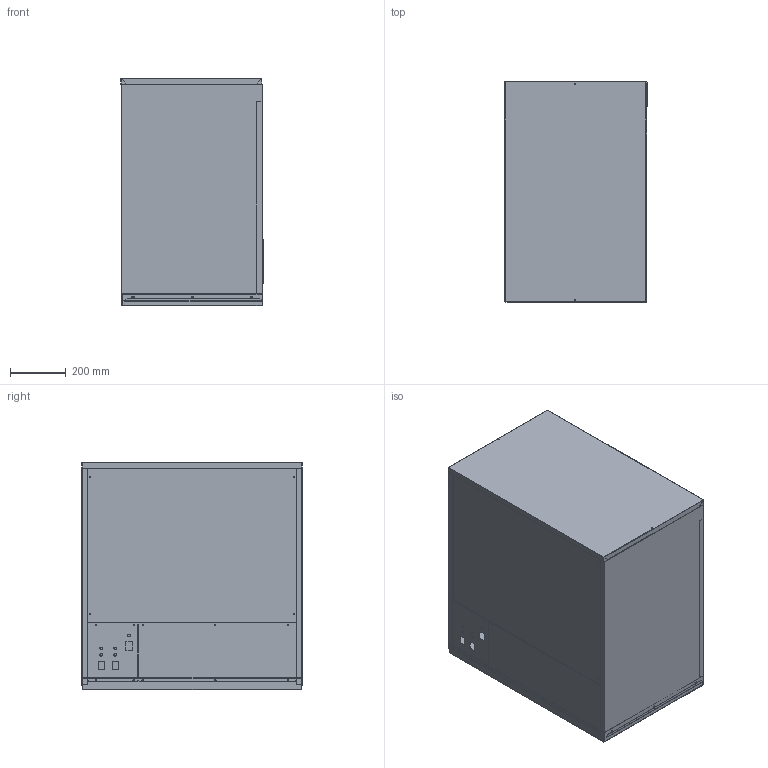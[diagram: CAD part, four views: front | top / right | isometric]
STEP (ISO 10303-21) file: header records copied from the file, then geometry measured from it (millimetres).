
FILE_DESCRIPTION(/* description */ ('Unknown'),/* implementation_level */ '2;1');
FILE_NAME(/* name */ 'GIQ-1100',/* time_stamp */ '2018-04-23T18:18:47+02:00',/* author */ ('Unknown'),/* organization */ ('Unknown'),/* preprocessor_version */ 'ST-DEVELOPER v16.7',/* originating_system */ 'DEX',/* authorisation */ $);
FILE_SCHEMA (('CONFIG_CONTROL_DESIGN'));
Length unit declared in the file: millimetre
Products named in the file (12): GIQ-1100; 24-176-3488-R1; 24-171+3540; 24-182+3539; 24-170+3481; 24-182+3538; 24-175+3486; 24-173+3484; 24-197+6218; 24-198+6219; 24-171+4965; 24-172+3483
Assembly tree (11 placements, depth 2):
  GIQ-1100
    24-176-3488-R1
    24-171+3540
    24-182+3539
    24-170+3481
    24-182+3538
    24-175+3486
    24-173+3484
    24-197+6218
    24-198+6219
    24-171+4965
    24-172+3483
Bounding box: 509.11 x 789.81 x 814.5 mm (x, y, z)
Volume: 2587502.1 mm3; surface area: 6353272.3 mm2
Topology: 11 solids, 11 shells, 1219 faces, 3315 edges, 2118 vertices
Faces by surface type: plane 905, cylinder 279, bspline 35
Full cylindrical faces by diameter (mm): 3.25 x1, 3.5 x4, 4 x50, 4.25 x26, 5 x4, 6 x10, 9 x5, 15 x3, 22 x1
Entity records: 38989 total; most frequent: CARTESIAN_POINT 7473, ORIENTED_EDGE 6386, DIRECTION 6018, EDGE_CURVE 3193, LINE 2610, VECTOR 2610, VERTEX_POINT 2100, EDGE_LOOP 1781
